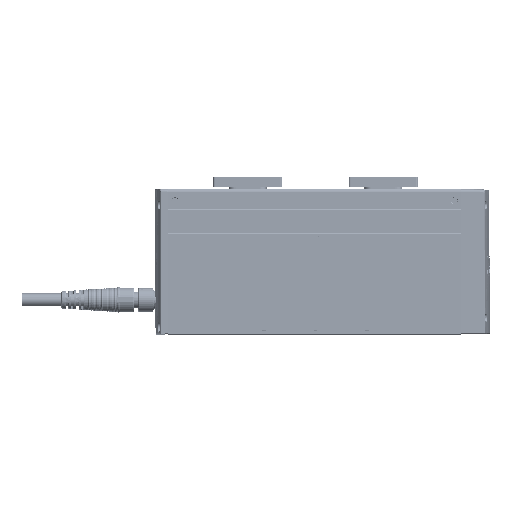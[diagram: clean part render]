
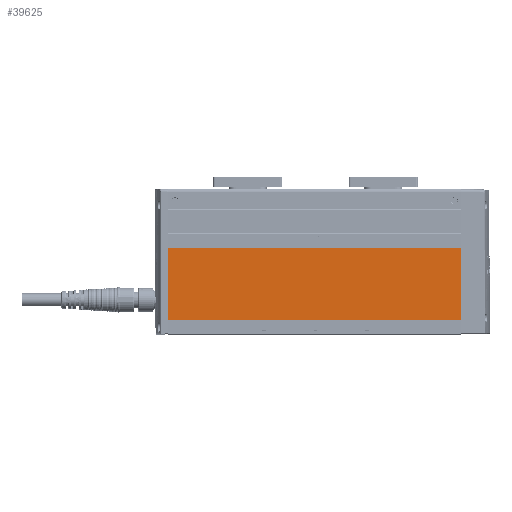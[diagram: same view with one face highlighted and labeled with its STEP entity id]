
A CAD part, top view. The second image highlights one B-rep face of the part: STEP entity #39625.
In plain terms, the highlighted planar face has unit normal (0, 0, 1).
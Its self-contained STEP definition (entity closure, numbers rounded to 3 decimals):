
#3408=PLANE('',#44300);
#6178=FACE_OUTER_BOUND('',#8466,.T.);
#8466=EDGE_LOOP('',(#36969,#36970,#36971,#36972));
#11067=LINE('',#84709,#13691);
#11102=LINE('',#84779,#13726);
#11108=LINE('',#84790,#13732);
#11110=LINE('',#84793,#13734);
#13691=VECTOR('',#55644,1000.);
#13726=VECTOR('',#55681,1000.);
#13732=VECTOR('',#55689,1000.);
#13734=VECTOR('',#55693,1000.);
#20026=VERTEX_POINT('',#84706);
#20027=VERTEX_POINT('',#84708);
#20060=VERTEX_POINT('',#84776);
#20061=VERTEX_POINT('',#84778);
#25689=EDGE_CURVE('',#20026,#20027,#11067,.T.);
#25724=EDGE_CURVE('',#20061,#20060,#11102,.T.);
#25730=EDGE_CURVE('',#20026,#20061,#11108,.T.);
#25732=EDGE_CURVE('',#20027,#20060,#11110,.T.);
#36969=ORIENTED_EDGE('',*,*,#25724,.T.);
#36970=ORIENTED_EDGE('',*,*,#25732,.F.);
#36971=ORIENTED_EDGE('',*,*,#25689,.F.);
#36972=ORIENTED_EDGE('',*,*,#25730,.T.);
#39625=ADVANCED_FACE('',(#6178),#3408,.F.);
#44300=AXIS2_PLACEMENT_3D('',#84792,#55691,#55692);
#55644=DIRECTION('',(0.,-1.,0.));
#55681=DIRECTION('',(0.,-1.,0.));
#55689=DIRECTION('',(-1.,0.,0.));
#55691=DIRECTION('center_axis',(0.,0.,
-1.));
#55692=DIRECTION('ref_axis',(0.,1.,0.));
#55693=DIRECTION('',(-1.,0.,0.));
#84706=CARTESIAN_POINT('',(84.5,50.5,23.7));
#84708=CARTESIAN_POINT('',(84.5,9.122,23.7));
#84709=CARTESIAN_POINT('',(84.5,50.5,23.7));
#84776=CARTESIAN_POINT('',(-85.5,9.122,23.7));
#84778=CARTESIAN_POINT('',(-85.5,50.5,23.7));
#84779=CARTESIAN_POINT('',(-85.5,50.5,23.7));
#84790=CARTESIAN_POINT('',(84.5,50.5,23.7));
#84792=CARTESIAN_POINT('Origin',(84.5,50.5,23.7));
#84793=CARTESIAN_POINT('',(84.5,9.122,23.7));
